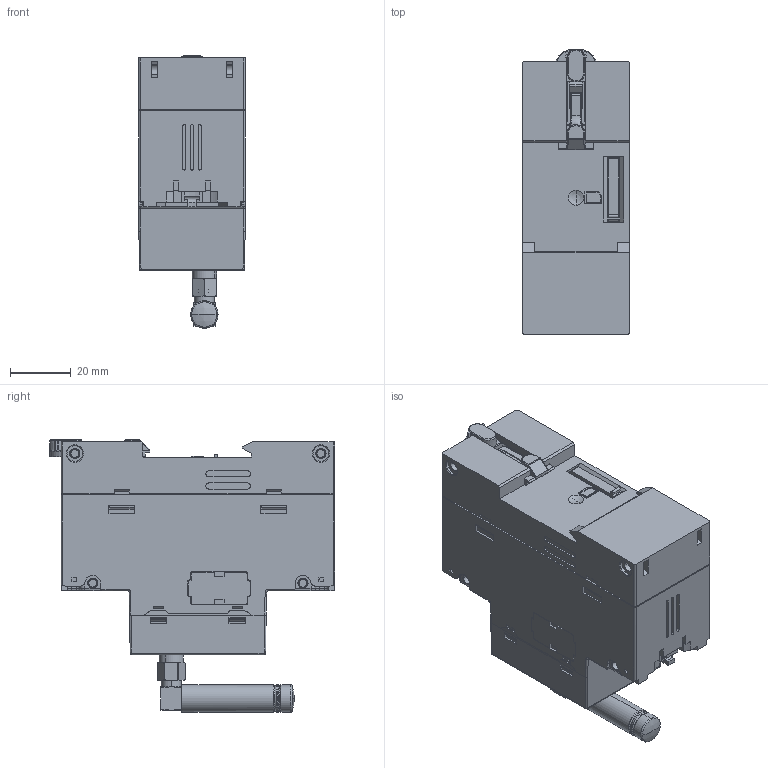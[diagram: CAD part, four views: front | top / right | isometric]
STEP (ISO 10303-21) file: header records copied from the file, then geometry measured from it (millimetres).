
FILE_DESCRIPTION((''),'2;1');
FILE_NAME('0000005949_ASM_1_ASM_SW0001','2024-03-26T11:55:26',('lesquembri'),(''),'CREO PARAMETRIC BY PTC INC, 2018260','CREO PARAMETRIC BY PTC INC, 2018260','');
FILE_SCHEMA(('AUTOMOTIVE_DESIGN { 1 0 10303 214 1 1 1 1 }'));
Products named in the file (1): 0000005949_ASM_1_ASM_SW0001
Bounding box: 35 x 93.85 x 89.65 mm (x, y, z)
Volume: 173994.4 mm3; surface area: 37088.9 mm2
Topology: 3 solids, 32 shells, 2729 faces, 7421 edges, 4890 vertices
Faces by surface type: plane 1899, extrusion 330, cylinder 306, cone 93, torus 50, bspline 39, sphere 12
Entity records: 98608 total; most frequent: CARTESIAN_POINT 29630, ORIENTED_EDGE 14826, DIRECTION 12021, EDGE_CURVE 7413, VECTOR 5909, LINE 5579, VERTEX_POINT 4891, AXIS2_PLACEMENT_3D 3056
